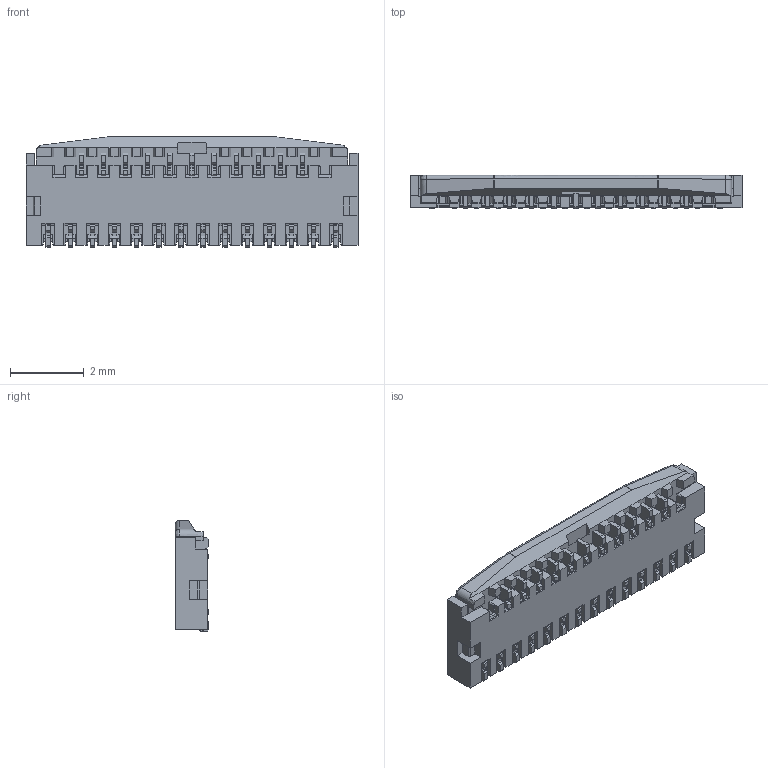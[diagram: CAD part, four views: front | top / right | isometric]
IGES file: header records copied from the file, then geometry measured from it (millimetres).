
Start section: SolidWorks IGES file using analytic representation for surfaces
Global section: file name: C:\3dwork\3dwork\MINIFLEX3-BFN LK TYPE ’†ŠÔƒtƒ@ƒCƒ‹ ACT CLOSE_140523\20599-023ExC ASS'Y ACT CLOSE IGES R1 ALL.IGS; native system: SolidWorks 2011; preprocessor: SolidWorks 2011; author: kaihatsu-3dcad-6; date: 141204.112317; units: millimetre
Bounding box: 9 x 0.9 x 3 mm (x, y, z)
Surface area: 113.1 mm2 (no closed solid volume)
Topology: 0 solids, 0 shells, 2277 faces, 14107 edges, 14103 vertices
Faces by surface type: bspline 1967, revolution 310
